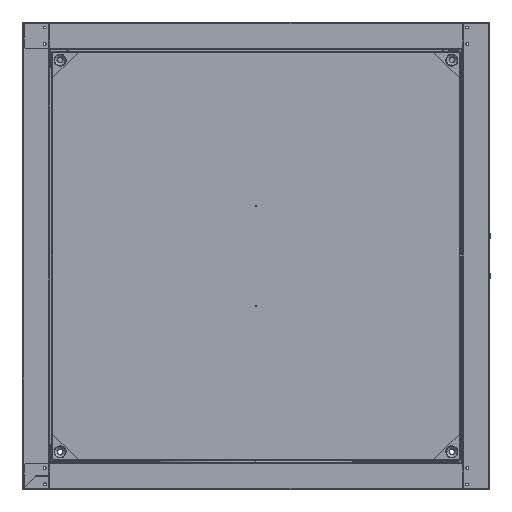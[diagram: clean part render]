
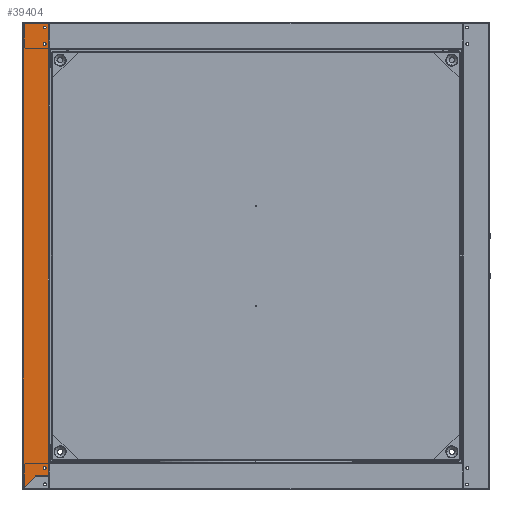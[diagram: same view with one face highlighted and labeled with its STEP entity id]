
A CAD part, left-side view. The second image highlights one B-rep face of the part: STEP entity #39404.
In plain terms, the highlighted planar face has unit normal (-1, 0, 0).
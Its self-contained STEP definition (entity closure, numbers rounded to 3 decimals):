
#16 = LINE ( 'NONE', #1394, #7788 ) ;
#275 = DIRECTION ( 'NONE',  ( 1., 0., 0. ) ) ;
#586 = FACE_BOUND ( 'NONE', #1338, .T. ) ;
#714 = EDGE_CURVE ( 'NONE', #41743, #26229, #21142, .T. ) ;
#1014 = ORIENTED_EDGE ( 'NONE', *, *, #20529, .F. ) ;
#1338 = EDGE_LOOP ( 'NONE', ( #23864, #32485 ) ) ;
#1394 = CARTESIAN_POINT ( 'NONE',  ( -350., 310.2, 348. ) ) ;
#2261 = LINE ( 'NONE', #6226, #35411 ) ;
#2780 = VERTEX_POINT ( 'NONE', #24601 ) ;
#3130 = EDGE_CURVE ( 'NONE', #12222, #42938, #2261, .T. ) ;
#3569 = VECTOR ( 'NONE', #38108, 1000. ) ;
#3646 = ORIENTED_EDGE ( 'NONE', *, *, #9996, .F. ) ;
#4296 = DIRECTION ( 'NONE',  ( 0., -1., 0. ) ) ;
#4694 = EDGE_LOOP ( 'NONE', ( #30029, #13222 ) ) ;
#5068 = AXIS2_PLACEMENT_3D ( 'NONE', #38542, #18766, #41859 ) ;
#5075 = CIRCLE ( 'NONE', #10085, 2.1 ) ;
#6222 = EDGE_CURVE ( 'NONE', #17924, #23992, #33907, .T. ) ;
#6226 = CARTESIAN_POINT ( 'NONE',  ( -350., 310.2, 311.65 ) ) ;
#7103 = CARTESIAN_POINT ( 'NONE',  ( -350., 310.7, 311.65 ) ) ;
#7108 = DIRECTION ( 'NONE',  ( 0., -1., 0. ) ) ;
#7592 = VECTOR ( 'NONE', #23650, 1000. ) ;
#7788 = VECTOR ( 'NONE', #21248, 1000. ) ;
#7845 = CARTESIAN_POINT ( 'NONE',  ( -350., 316., 341.7 ) ) ;
#8103 = LINE ( 'NONE', #28705, #15938 ) ;
#8265 = ORIENTED_EDGE ( 'NONE', *, *, #3130, .T. ) ;
#8400 = FACE_OUTER_BOUND ( 'NONE', #21082, .T. ) ;
#8514 = EDGE_LOOP ( 'NONE', ( #30532, #24906 ) ) ;
#9234 = CARTESIAN_POINT ( 'NONE',  ( -350., 316., -317.2 ) ) ;
#9996 = EDGE_CURVE ( 'NONE', #24592, #2780, #37293, .T. ) ;
#10085 = AXIS2_PLACEMENT_3D ( 'NONE', #13641, #36743, #16992 ) ;
#10152 = PLANE ( 'NONE',  #26427 ) ;
#10278 = CARTESIAN_POINT ( 'NONE',  ( -350., 310.7, -310.05 ) ) ;
#10386 = CARTESIAN_POINT ( 'NONE',  ( -350., 318.1, 317.2 ) ) ;
#10522 = CARTESIAN_POINT ( 'NONE',  ( -350., 310.2, -310.05 ) ) ;
#10523 = DIRECTION ( 'NONE',  ( 0., -1., 0. ) ) ;
#10525 = DIRECTION ( 'NONE',  ( 0., 0., -1. ) ) ;
#10562 = EDGE_CURVE ( 'NONE', #23992, #17924, #35159, .T. ) ;
#10676 = DIRECTION ( 'NONE',  ( -1., 0., 0. ) ) ;
#11142 = DIRECTION ( 'NONE',  ( 0., 0., 1. ) ) ;
#11209 = DIRECTION ( 'NONE',  ( 0., -1., 0. ) ) ;
#11492 = CARTESIAN_POINT ( 'NONE',  ( -350., 349.1, -348.45 ) ) ;
#12222 = VERTEX_POINT ( 'NONE', #37901 ) ;
#13222 = ORIENTED_EDGE ( 'NONE', *, *, #30964, .F. ) ;
#13641 = CARTESIAN_POINT ( 'NONE',  ( -350., 316., 341.7 ) ) ;
#13868 = CARTESIAN_POINT ( 'NONE',  ( -350., 316., -317.2 ) ) ;
#13952 = VECTOR ( 'NONE', #16989, 1000. ) ;
#15197 = AXIS2_PLACEMENT_3D ( 'NONE', #9234, #33236, #4296 ) ;
#15410 = DIRECTION ( 'NONE',  ( 0., 0., 1. ) ) ;
#15938 = VECTOR ( 'NONE', #15410, 1000. ) ;
#16624 = CARTESIAN_POINT ( 'NONE',  ( -350., 316., 317.2 ) ) ;
#16989 = DIRECTION ( 'NONE',  ( 0., 1., 0. ) ) ;
#16992 = DIRECTION ( 'NONE',  ( 0., -1., 0. ) ) ;
#17092 = CARTESIAN_POINT ( 'NONE',  ( -350., 313.9, 317.2 ) ) ;
#17924 = VERTEX_POINT ( 'NONE', #28020 ) ;
#18298 = FACE_BOUND ( 'NONE', #8514, .T. ) ;
#18751 = EDGE_CURVE ( 'NONE', #36516, #39363, #39431, .T. ) ;
#18766 = DIRECTION ( 'NONE',  ( -1., 0., 0. ) ) ;
#18845 = DIRECTION ( 'NONE',  ( 0., -1., 0. ) ) ;
#18881 = DIRECTION ( 'NONE',  ( 0., 0., -1. ) ) ;
#19259 = CARTESIAN_POINT ( 'NONE',  ( -350., 329.75, -329.1 ) ) ;
#19549 = VERTEX_POINT ( 'NONE', #19259 ) ;
#19709 = VECTOR ( 'NONE', #7108, 1000. ) ;
#20082 = ORIENTED_EDGE ( 'NONE', *, *, #36849, .T. ) ;
#20329 = EDGE_CURVE ( 'NONE', #19549, #38016, #38331, .T. ) ;
#20529 = EDGE_CURVE ( 'NONE', #19549, #35600, #21224, .T. ) ;
#21082 = EDGE_LOOP ( 'NONE', ( #24868, #20082, #1014, #24548, #22565, #25908, #3646, #27111, #8265 ) ) ;
#21114 = EDGE_CURVE ( 'NONE', #39363, #36516, #5075, .T. ) ;
#21142 = CIRCLE ( 'NONE', #39096, 2.1 ) ;
#21224 = LINE ( 'NONE', #11492, #3569 ) ;
#21248 = DIRECTION ( 'NONE',  ( 0., 1., 0. ) ) ;
#21860 = DIRECTION ( 'NONE',  ( -1., 0., 0. ) ) ;
#22565 = ORIENTED_EDGE ( 'NONE', *, *, #28528, .T. ) ;
#23373 = CARTESIAN_POINT ( 'NONE',  ( -350., 318.1, 341.7 ) ) ;
#23487 = DIRECTION ( 'NONE',  ( 0., 1., 0. ) ) ;
#23650 = DIRECTION ( 'NONE',  ( 0., -1., 0. ) ) ;
#23864 = ORIENTED_EDGE ( 'NONE', *, *, #10562, .F. ) ;
#23992 = VERTEX_POINT ( 'NONE', #30829 ) ;
#24548 = ORIENTED_EDGE ( 'NONE', *, *, #20329, .T. ) ;
#24592 = VERTEX_POINT ( 'NONE', #28487 ) ;
#24601 = CARTESIAN_POINT ( 'NONE',  ( -350., 310.7, -310.05 ) ) ;
#24868 = ORIENTED_EDGE ( 'NONE', *, *, #40109, .T. ) ;
#24906 = ORIENTED_EDGE ( 'NONE', *, *, #18751, .F. ) ;
#25208 = CARTESIAN_POINT ( 'NONE',  ( -350., 310.2, -329.1 ) ) ;
#25819 = AXIS2_PLACEMENT_3D ( 'NONE', #13868, #10676, #10523 ) ;
#25908 = ORIENTED_EDGE ( 'NONE', *, *, #41285, .T. ) ;
#26032 = FACE_BOUND ( 'NONE', #4694, .T. ) ;
#26229 = VERTEX_POINT ( 'NONE', #10386 ) ;
#26427 = AXIS2_PLACEMENT_3D ( 'NONE', #36627, #275, #23487 ) ;
#26985 = VERTEX_POINT ( 'NONE', #39533 ) ;
#27111 = ORIENTED_EDGE ( 'NONE', *, *, #28269, .T. ) ;
#27862 = CARTESIAN_POINT ( 'NONE',  ( -350., 310.2, 348. ) ) ;
#28020 = CARTESIAN_POINT ( 'NONE',  ( -350., 318.1, -317.2 ) ) ;
#28269 = EDGE_CURVE ( 'NONE', #24592, #12222, #34022, .T. ) ;
#28487 = CARTESIAN_POINT ( 'NONE',  ( -350., 310.7, 311.65 ) ) ;
#28504 = VECTOR ( 'NONE', #10525, 1000. ) ;
#28528 = EDGE_CURVE ( 'NONE', #38016, #36029, #8103, .T. ) ;
#28705 = CARTESIAN_POINT ( 'NONE',  ( -350., 310.2, -310.05 ) ) ;
#30029 = ORIENTED_EDGE ( 'NONE', *, *, #714, .F. ) ;
#30532 = ORIENTED_EDGE ( 'NONE', *, *, #21114, .F. ) ;
#30829 = CARTESIAN_POINT ( 'NONE',  ( -350., 313.9, -317.2 ) ) ;
#30964 = EDGE_CURVE ( 'NONE', #26229, #41743, #37396, .T. ) ;
#31011 = DIRECTION ( 'NONE',  ( -1., 0., 0. ) ) ;
#32230 = AXIS2_PLACEMENT_3D ( 'NONE', #7845, #31011, #11209 ) ;
#32485 = ORIENTED_EDGE ( 'NONE', *, *, #6222, .F. ) ;
#33236 = DIRECTION ( 'NONE',  ( -1., 0., 0. ) ) ;
#33907 = CIRCLE ( 'NONE', #15197, 2.1 ) ;
#34002 = VECTOR ( 'NONE', #18881, 1000. ) ;
#34022 = LINE ( 'NONE', #7103, #7592 ) ;
#34796 = CARTESIAN_POINT ( 'NONE',  ( -350., 310.7, 348.95 ) ) ;
#35044 = LINE ( 'NONE', #41989, #34002 ) ;
#35159 = CIRCLE ( 'NONE', #25819, 2.1 ) ;
#35411 = VECTOR ( 'NONE', #11142, 1000. ) ;
#35600 = VERTEX_POINT ( 'NONE', #37177 ) ;
#36029 = VERTEX_POINT ( 'NONE', #10522 ) ;
#36339 = CARTESIAN_POINT ( 'NONE',  ( -350., 313.9, 341.7 ) ) ;
#36516 = VERTEX_POINT ( 'NONE', #23373 ) ;
#36627 = CARTESIAN_POINT ( 'NONE',  ( -350., 350., 348.95 ) ) ;
#36743 = DIRECTION ( 'NONE',  ( -1., 0., 0. ) ) ;
#36849 = EDGE_CURVE ( 'NONE', #26985, #35600, #35044, .T. ) ;
#37177 = CARTESIAN_POINT ( 'NONE',  ( -350., 348., -347.35 ) ) ;
#37293 = LINE ( 'NONE', #34796, #28504 ) ;
#37396 = CIRCLE ( 'NONE', #5068, 2.1 ) ;
#37901 = CARTESIAN_POINT ( 'NONE',  ( -350., 310.2, 311.65 ) ) ;
#38016 = VERTEX_POINT ( 'NONE', #25208 ) ;
#38108 = DIRECTION ( 'NONE',  ( 0., 0.707, -0.707 ) ) ;
#38331 = LINE ( 'NONE', #40124, #19709 ) ;
#38542 = CARTESIAN_POINT ( 'NONE',  ( -350., 316., 317.2 ) ) ;
#39096 = AXIS2_PLACEMENT_3D ( 'NONE', #16624, #21860, #18845 ) ;
#39286 = LINE ( 'NONE', #10278, #13952 ) ;
#39363 = VERTEX_POINT ( 'NONE', #36339 ) ;
#39404 = ADVANCED_FACE ( 'NONE', ( #586, #26032, #18298, #8400 ), #10152, .F. ) ;
#39431 = CIRCLE ( 'NONE', #32230, 2.1 ) ;
#39533 = CARTESIAN_POINT ( 'NONE',  ( -350., 348., 348. ) ) ;
#40109 = EDGE_CURVE ( 'NONE', #42938, #26985, #16, .T. ) ;
#40124 = CARTESIAN_POINT ( 'NONE',  ( -350., 310.2, -329.1 ) ) ;
#41285 = EDGE_CURVE ( 'NONE', #36029, #2780, #39286, .T. ) ;
#41743 = VERTEX_POINT ( 'NONE', #17092 ) ;
#41859 = DIRECTION ( 'NONE',  ( 0., -1., 0. ) ) ;
#41989 = CARTESIAN_POINT ( 'NONE',  ( -350., 348., 348.95 ) ) ;
#42938 = VERTEX_POINT ( 'NONE', #27862 ) ;
